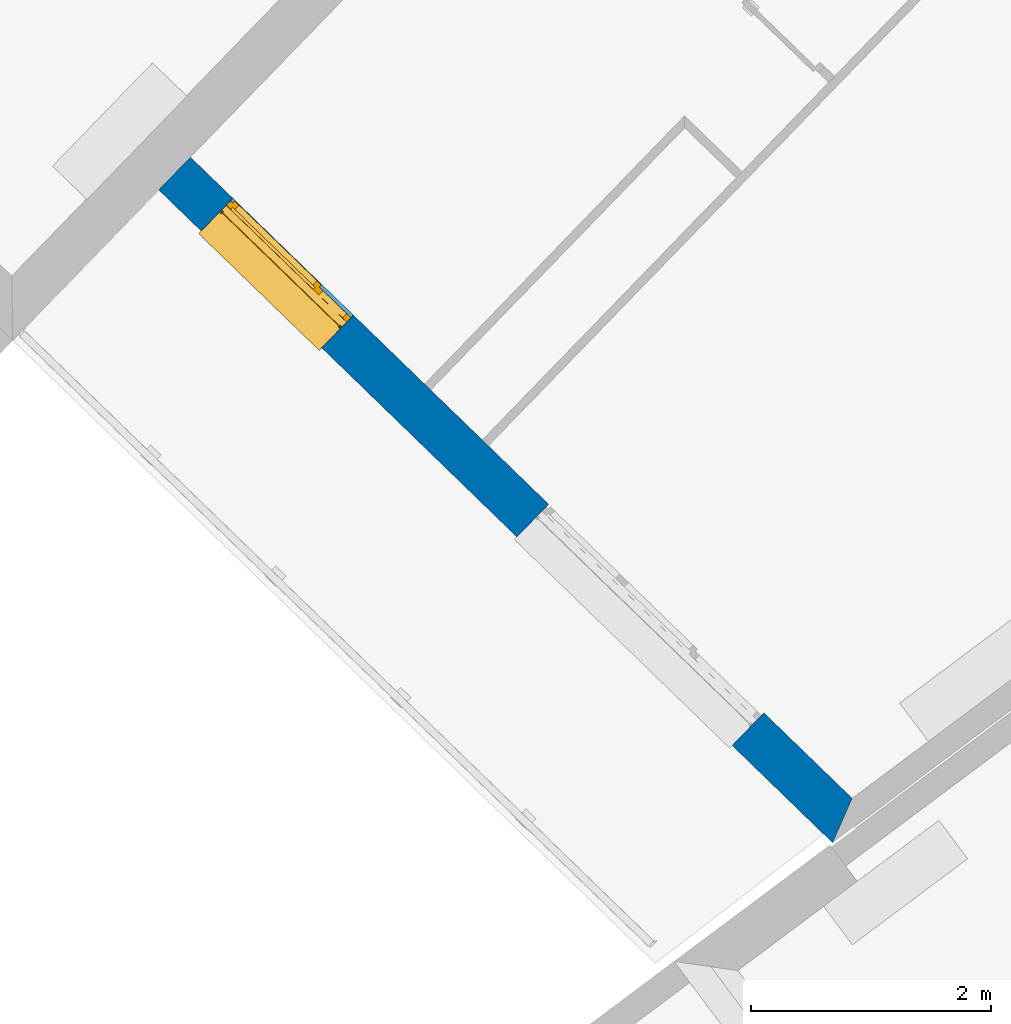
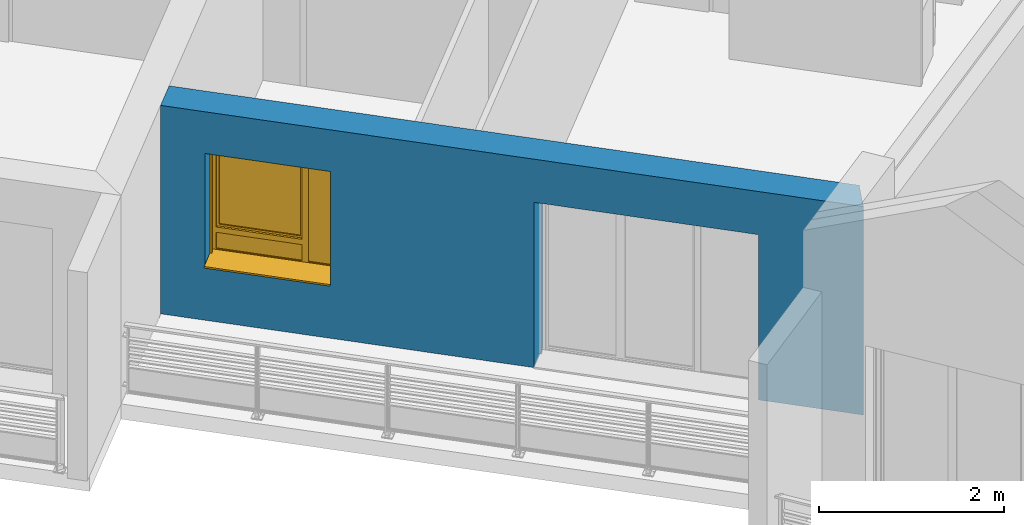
# One storey, part 2 of 121: 1 wall, 1 window, 2 openings.
"""IFC2X3 building model written with IfcOpenShell, lengths in metres."""

from ifc_helpers import new_model, entity, si_unit, converted_unit, derived_unit, money_unit, direction, frame, origin_with_axes, place, context, subcontext, project, spatial, polyline, outline, extrude, open_shell, faceted_brep, surface_model, source, transform, mapped, material, layer, layer_set, layer_usage, type_object, element, fill, save


model = new_model("IFC2X3")

# Units and contexts
model_context = context("Model", 3, precision=1e-05, world=origin_with_axes(), true_north=direction((0.0, 1.0)))
body_context = subcontext(model_context, "Body", "Model", "MODEL_VIEW")
ifc_project = project(units=[si_unit("LENGTHUNIT", "METRE"), si_unit("AREAUNIT", "SQUARE_METRE"), si_unit("VOLUMEUNIT", "CUBIC_METRE"), converted_unit("PLANEANGLEUNIT", "DEGREE", entity("IfcPlaneAngleMeasure", 0.0174532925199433), si_unit("PLANEANGLEUNIT", "RADIAN"), dimensions=[0, 0, 0, 0, 0, 0, 0]), money_unit("CHF"), converted_unit("TIMEUNIT", "Year", entity("IfcTimeMeasure", 31557600.0), si_unit("TIMEUNIT", "SECOND"), dimensions=[0, 0, 1, 0, 0, 0, 0]), si_unit("MASSUNIT", "GRAM", prefix="KILO"), si_unit("THERMODYNAMICTEMPERATUREUNIT", "DEGREE_CELSIUS"), si_unit("LUMINOUSINTENSITYUNIT", "LUMEN"), si_unit("ENERGYUNIT", "JOULE", prefix="MEGA"), derived_unit("THERMALCONDUCTANCEUNIT", [(si_unit("POWERUNIT", "WATT"), 1), (si_unit("LENGTHUNIT", "METRE"), -1), (si_unit("THERMODYNAMICTEMPERATUREUNIT", "KELVIN"), -1)]), derived_unit("SPECIFICHEATCAPACITYUNIT", [(si_unit("ENERGYUNIT", "JOULE"), 1), (si_unit("MASSUNIT", "GRAM", prefix="KILO"), -1), (si_unit("THERMODYNAMICTEMPERATUREUNIT", "KELVIN"), -1)]), derived_unit("MASSDENSITYUNIT", [(si_unit("MASSUNIT", "GRAM", prefix="KILO"), 1), (si_unit("VOLUMEUNIT", "CUBIC_METRE"), -1)])], contexts=[model_context])

# Site, building, storey
site_placement = place(None, origin_with_axes())
site = spatial("IfcSite", under=ifc_project, at=site_placement, Name="Site", CompositionType="ELEMENT")
building_placement = place(site_placement, origin_with_axes())
building = spatial("IfcBuilding", under=site, at=building_placement, Name="Bâtiment", CompositionType="ELEMENT")
storey_placement = place(building_placement, frame((0.0, 0.0, 2.75), z_axis=(0.0, 0.0, 1.0), x_axis=(1.0, 0.0, 0.0)))
storey = spatial("IfcBuildingStorey", under=building, at=storey_placement, Name="Etage 1", CompositionType="ELEMENT", Elevation=2.75)

# Wall, openings, window
ifc_material_1 = material(Name="Parpaing 312445824")
ifc_layer_1 = layer(ifc_material_1, 0.22, ventilated="UNKNOWN")
ifc_material_2 = material(Name="Isolant styromousse 301821074")
ifc_layer_2 = layer(ifc_material_2, 0.16, ventilated="UNKNOWN")
ifc_layer_set = layer_set([ifc_layer_1, ifc_layer_2], Name="isol int 22+16 0836643197")
ifc_layer_usage = layer_usage(ifc_layer_set, "AXIS2", "POSITIVE", 0.0)
wall_type = type_object("IfcWallType", Name="isol int 22+16 0836643197 380", PredefinedType="NOTDEFINED")
wall_placement = place(storey_placement, frame((9523.941571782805, -1070.182928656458, 57.7), z_axis=(0.0, 0.0, 1.0), x_axis=(0.71817639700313, -0.6958610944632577, 0.0)))
wall = element("IfcWallStandardCase", 1, at=wall_placement, inside=storey, type_object=wall_type, material=ifc_layer_usage, Name="Mur-113", context=body_context, shape_type="SweptSolid", body=[
    extrude(outline(polyline([(2.100932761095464e-10, 0.0), (7.831839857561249, 0.0), (7.690439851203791, 0.3799999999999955), (2.296474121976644e-10, 0.3799999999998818), (2.100932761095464e-10, 0.0)])), origin_with_axes(), (0.0, 0.0, 1.0), 2.75),
])
opening_1_placement = place(wall_placement, frame((5.413572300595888, 0.0, 0.0), z_axis=(0.0, 0.0, 1.0), x_axis=(1.0, 0.0, 0.0)))
element("IfcOpeningElement", 2, at=opening_1_placement, cuts=wall, Name="Fen-045", context=body_context, shape_type="Brep", body=[
    faceted_brep([(-1.25, 0.4799999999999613, 2.18), (1.249999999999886, 0.4799999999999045, 2.18), (1.25, 4.193732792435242, 2.18), (-1.250000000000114, 4.193732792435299, 2.18), (-1.25, 0.4799999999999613, 2.380000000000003), (1.249999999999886, 0.4799999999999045, 2.380000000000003), (1.249999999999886, 0.2999999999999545, 2.18), (1.249999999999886, 0.2999999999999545, 0.0), (1.25, 4.193732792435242, 0.0), (-1.250000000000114, 4.193732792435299, 0.0), (-1.250000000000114, 0.3000000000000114, 2.18), (-1.250000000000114, 0.3000000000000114, 0.0), (-1.250000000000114, 0.2199999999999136, 2.18), (-1.250000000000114, 0.2199999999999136, 2.380000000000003), (1.249999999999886, 0.2199999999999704, 2.380000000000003), (1.249999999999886, 0.2199999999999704, 2.18), (1.249999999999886, -3.813732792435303, 2.18), (1.249999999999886, -3.813732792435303, 0.0), (-1.250000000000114, -3.813732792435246, 0.0), (-1.250000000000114, -3.813732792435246, 2.18)], [[[0, 1, 2, 3]], [[1, 0, 4, 5]], [[1, 6, 7, 8, 2]], [[2, 8, 9, 3]], [[10, 0, 3, 9, 11]], [[0, 10, 12, 13, 4]], [[14, 5, 4, 13]], [[6, 1, 5, 14, 15]], [[6, 15, 16, 17, 7]], [[7, 11, 9, 8]], [[12, 10, 11, 18, 19]], [[12, 15, 14, 13]], [[15, 12, 19, 16]], [[19, 18, 17, 16]], [[11, 7, 17, 18]]]),
])
opening_2_placement = place(wall_placement, frame((1.194223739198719, 0.0, 0.7000000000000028), z_axis=(0.0, 0.0, 1.0), x_axis=(1.0, 0.0, 0.0)))
opening_2 = element("IfcOpeningElement", 3, at=opening_2_placement, cuts=wall, Name="Fen-045", context=body_context, shape_type="Brep", body=[
    faceted_brep([(-0.7000000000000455, 0.480000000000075, 1.5), (0.7000000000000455, 0.4800000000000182, 1.5), (0.7000000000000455, 4.193732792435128, 1.5), (-0.6999999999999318, 4.193732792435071, 1.5), (-0.7000000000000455, 0.480000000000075, 1.700000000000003), (0.7000000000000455, 0.4800000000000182, 1.700000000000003), (0.6999999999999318, 0.3000000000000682, 1.5), (0.7000000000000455, 0.3000000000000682, 0.0), (0.7000000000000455, 4.193732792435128, 0.0), (-0.6999999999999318, 4.193732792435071, 0.0), (-0.7000000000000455, 0.2999999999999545, 1.5), (-0.7000000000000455, 0.3000000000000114, 0.0), (-0.7000000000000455, 0.2200000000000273, 1.5), (-0.7000000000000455, 0.2200000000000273, 1.700000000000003), (0.7000000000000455, 0.2199999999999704, 1.700000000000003), (0.7000000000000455, 0.2199999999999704, 1.5), (0.7000000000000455, -3.813732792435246, 1.5), (0.7000000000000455, -3.813732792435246, 0.0), (-0.6999999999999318, -3.81373279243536, 0.0), (-0.6999999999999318, -3.81373279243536, 1.5)], [[[0, 1, 2, 3]], [[1, 0, 4, 5]], [[1, 6, 7, 8, 2]], [[2, 8, 9, 3]], [[10, 0, 3, 9, 11]], [[0, 10, 12, 13, 4]], [[14, 5, 4, 13]], [[6, 1, 5, 14, 15]], [[6, 15, 16, 17, 7]], [[7, 11, 9, 8]], [[12, 10, 11, 18, 19]], [[12, 15, 14, 13]], [[15, 12, 19, 16]], [[19, 18, 17, 16]], [[11, 7, 17, 18]]]),
])
window_style = type_object("IfcWindowStyle", Name="Fenêtre variable 27", ConstructionType="NOTDEFINED", OperationType="TRIPLE_PANEL_RIGHT", ParameterTakesPrecedence=False, Sizeable=False)
shared_shape = source(origin_with_axes(), body_context, "Body", "SurfaceModel", [
    surface_model("IfcShellBasedSurfaceModel", [(-0.7, -0.05100000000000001, 0.05), (-0.7, -0.05100000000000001, 0.04), (0.7, -0.05100000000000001, 0.04000000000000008), (0.7, -0.05100000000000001, 0.05000000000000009), (-0.7, -0.3799999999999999, 0.02899999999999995), (0.7, -0.3799999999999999, 0.02900000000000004), (-0.7, -0.3799999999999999, 0.008999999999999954), (0.7, -0.3799999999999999, 0.00900000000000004), (-0.7, -0.3699999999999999, 0.01899999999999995), (0.7, -0.3699999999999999, 0.01900000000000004)], [open_shell([[[0, 1, 2, 3]], [[1, 4, 5, 2]], [[4, 6, 7, 5]], [[6, 8, 9, 7]]])]),
    faceted_brep([(-0.7, -0.13, 1.7), (-0.697, -0.13, 1.7), (-0.697, 0.13, 1.7), (-0.7, 0.13, 1.7), (-0.7, -0.13, 1.5), (-0.697, -0.13, 1.5), (-0.697, 0.13, 1.5), (-0.7, 0.13, 1.5)], [[[0, 1, 2, 3]], [[4, 5, 1, 0]], [[1, 5, 6, 2]], [[3, 2, 6, 7]], [[0, 3, 7, 4]], [[7, 6, 5, 4]]]),
    faceted_brep([(0.6970000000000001, -0.1299999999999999, 1.7), (0.7000000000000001, -0.1299999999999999, 1.7), (0.7000000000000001, 0.1300000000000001, 1.7), (0.6970000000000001, 0.1300000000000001, 1.7), (0.6970000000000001, -0.1299999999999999, 1.5), (0.7000000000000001, -0.1299999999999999, 1.5), (0.7000000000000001, 0.1300000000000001, 1.5), (0.6970000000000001, 0.1300000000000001, 1.5)], [[[0, 1, 2, 3]], [[4, 5, 1, 0]], [[1, 5, 6, 2]], [[3, 2, 6, 7]], [[0, 3, 7, 4]], [[7, 6, 5, 4]]]),
    faceted_brep([(-0.697, -0.13, 1.5), (0.697, -0.1299999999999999, 1.5), (0.697, -0.1299999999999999, 1.7), (-0.697, -0.13, 1.7), (-0.697, -0.127, 1.5), (0.697, -0.1269999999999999, 1.5), (0.697, -0.1269999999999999, 1.697), (0.697, 0.1270000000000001, 1.697), (0.697, 0.1270000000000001, 1.503), (0.697, -0.1079999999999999, 1.503), (0.697, -0.1079999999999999, 1.5), (0.697, 0.1300000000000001, 1.5), (0.697, 0.1300000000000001, 1.7), (-0.697, 0.13, 1.7), (-0.697, 0.13, 1.5), (-0.697, -0.108, 1.5), (-0.697, -0.108, 1.503), (-0.697, 0.127, 1.503), (-0.697, 0.127, 1.697), (-0.697, -0.127, 1.697)], [[[0, 1, 2, 3]], [[4, 5, 1, 0]], [[1, 5, 6, 7, 8, 9, 10, 11, 12, 2]], [[3, 2, 12, 13]], [[0, 3, 13, 14, 15, 16, 17, 18, 19, 4]], [[19, 6, 5, 4]], [[18, 7, 6, 19]], [[17, 8, 7, 18]], [[16, 9, 8, 17]], [[15, 10, 9, 16]], [[14, 11, 10, 15]], [[13, 12, 11, 14]]]),
    faceted_brep([(-0.694, -0.08075423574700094, 1.585760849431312), (-0.694, -0.08200000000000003, 1.6), (-0.694, -0.0807542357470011, 1.614239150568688), (-0.694, -0.07705479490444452, 1.628045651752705), (-0.694, -0.07101408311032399, 1.641), (-0.694, -0.06281564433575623, 1.652708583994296), (-0.694, -0.05270858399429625, 1.662815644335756), (-0.694, -0.04100000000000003, 1.671014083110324), (-0.694, -0.02804565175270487, 1.677054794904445), (-0.694, -0.01423915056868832, 1.680754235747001), (-0.694, 0.0, 1.682), (-0.694, 0.01423915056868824, 1.680754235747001), (-0.694, 0.02804565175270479, 1.677054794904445), (-0.694, 0.04099999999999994, 1.671014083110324), (-0.694, 0.05270858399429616, 1.662815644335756), (-0.694, 0.06281564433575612, 1.652708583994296), (-0.694, 0.07101408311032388, 1.641), (-0.694, 0.0770547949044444, 1.628045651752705), (-0.694, 0.08075423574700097, 1.614239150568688), (-0.694, 0.0819999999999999, 1.6), (-0.694, 0.08075423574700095, 1.585760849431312), (-0.694, 0.07705479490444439, 1.571954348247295), (-0.694, 0.07101408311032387, 1.559), (-0.694, 0.06281564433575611, 1.547291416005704), (-0.694, 0.05270858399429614, 1.537184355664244), (-0.694, 0.04099999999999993, 1.528985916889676), (-0.694, 0.02804565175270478, 1.522945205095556), (-0.694, 0.01423915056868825, 1.519245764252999), (-0.694, 0.0, 1.518), (-0.694, -0.01423915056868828, 1.519245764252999), (-0.694, -0.02804565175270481, 1.522945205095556), (-0.694, -0.04099999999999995, 1.528985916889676), (-0.694, -0.05270858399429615, 1.537184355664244), (-0.694, -0.06281564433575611, 1.547291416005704), (-0.694, -0.07101408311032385, 1.559), (-0.694, -0.07705479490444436, 1.571954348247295), (0.694, -0.08075423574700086, 1.585760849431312), (0.694, -0.08199999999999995, 1.6), (0.694, -0.08075423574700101, 1.614239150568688), (0.694, -0.07705479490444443, 1.628045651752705), (0.694, -0.07101408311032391, 1.641), (0.694, -0.06281564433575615, 1.652708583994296), (0.694, -0.05270858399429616, 1.662815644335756), (0.694, -0.04099999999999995, 1.671014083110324), (0.694, -0.02804565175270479, 1.677054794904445), (0.694, -0.01423915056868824, 1.680754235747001), (0.694, 0.0, 1.682), (0.694, 0.01423915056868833, 1.680754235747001), (0.694, 0.02804565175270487, 1.677054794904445), (0.694, 0.04100000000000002, 1.671014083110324), (0.694, 0.05270858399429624, 1.662815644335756), (0.694, 0.0628156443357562, 1.652708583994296), (0.694, 0.07101408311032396, 1.641), (0.694, 0.07705479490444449, 1.628045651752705), (0.694, 0.08075423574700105, 1.614239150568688), (0.694, 0.08199999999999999, 1.6), (0.694, 0.08075423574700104, 1.585760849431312), (0.694, 0.07705479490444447, 1.571954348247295), (0.694, 0.07101408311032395, 1.559), (0.694, 0.06281564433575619, 1.547291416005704), (0.694, 0.05270858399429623, 1.537184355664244), (0.694, 0.04100000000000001, 1.528985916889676), (0.694, 0.02804565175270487, 1.522945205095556), (0.694, 0.01423915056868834, 1.519245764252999), (0.694, 0.0, 1.518), (0.694, -0.0142391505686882, 1.519245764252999), (0.694, -0.02804565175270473, 1.522945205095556), (0.694, -0.04099999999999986, 1.528985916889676), (0.694, -0.05270858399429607, 1.537184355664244), (0.694, -0.06281564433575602, 1.547291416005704), (0.694, -0.07101408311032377, 1.559), (0.694, -0.07705479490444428, 1.571954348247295)], [[[0, 1, 2, 3, 4, 5, 6, 7, 8, 9, 10, 11, 12, 13, 14, 15, 16, 17, 18, 19, 20, 21, 22, 23, 24, 25, 26, 27, 28, 29, 30, 31, 32, 33, 34, 35]], [[0, 36, 37, 1]], [[1, 37, 38, 2]], [[2, 38, 39, 3]], [[3, 39, 40, 4]], [[4, 40, 41, 5]], [[5, 41, 42, 6]], [[6, 42, 43, 7]], [[7, 43, 44, 8]], [[8, 44, 45, 9]], [[9, 45, 46, 10]], [[10, 46, 47, 11]], [[11, 47, 48, 12]], [[12, 48, 49, 13]], [[13, 49, 50, 14]], [[14, 50, 51, 15]], [[15, 51, 52, 16]], [[16, 52, 53, 17]], [[17, 53, 54, 18]], [[18, 54, 55, 19]], [[19, 55, 56, 20]], [[20, 56, 57, 21]], [[21, 57, 58, 22]], [[22, 58, 59, 23]], [[23, 59, 60, 24]], [[24, 60, 61, 25]], [[25, 61, 62, 26]], [[26, 62, 63, 27]], [[27, 63, 64, 28]], [[28, 64, 65, 29]], [[29, 65, 66, 30]], [[30, 66, 67, 31]], [[31, 67, 68, 32]], [[32, 68, 69, 33]], [[33, 69, 70, 34]], [[34, 70, 71, 35]], [[35, 71, 36, 0]], [[36, 71, 70, 69, 68, 67, 66, 65, 64, 63, 62, 61, 60, 59, 58, 57, 56, 55, 54, 53, 52, 51, 50, 49, 48, 47, 46, 45, 44, 43, 42, 41, 40, 39, 38, 37]]]),
    faceted_brep([(0.7, -0.105, 0.03), (0.7, -0.1049999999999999, 1.5), (0.7, -0.1299999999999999, 1.5), (0.7, -0.13, 0.03), (0.6749999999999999, -0.105, 0.03), (0.6749999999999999, -0.1049999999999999, 1.5), (0.6749999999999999, -0.1079999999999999, 1.5), (0.697, -0.1079999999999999, 1.5), (0.697, -0.1269999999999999, 1.5), (0.6749999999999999, -0.1269999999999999, 1.5), (0.6749999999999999, -0.1299999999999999, 1.5), (0.6749999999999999, -0.13, 0.03), (0.6749999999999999, -0.127, 0.03), (0.697, -0.127, 0.03), (0.697, -0.108, 0.03), (0.6749999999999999, -0.108, 0.03)], [[[0, 1, 2, 3]], [[4, 5, 1, 0]], [[1, 5, 6, 7, 8, 9, 10, 2]], [[3, 2, 10, 11]], [[0, 3, 11, 12, 13, 14, 15, 4]], [[15, 6, 5, 4]], [[14, 7, 6, 15]], [[13, 8, 7, 14]], [[12, 9, 8, 13]], [[11, 10, 9, 12]]]),
    faceted_brep([(-0.7, -0.105, 0.03), (-0.7, -0.13, 0.03), (-0.7, -0.1299999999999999, 1.5), (-0.7, -0.1049999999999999, 1.5), (-0.6749999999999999, -0.105, 0.03), (-0.6749999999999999, -0.108, 0.03), (-0.697, -0.108, 0.03), (-0.697, -0.127, 0.03), (-0.6749999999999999, -0.127, 0.03), (-0.6749999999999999, -0.13, 0.03), (-0.6749999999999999, -0.1299999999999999, 1.5), (-0.6749999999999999, -0.1269999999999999, 1.5), (-0.697, -0.1269999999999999, 1.5), (-0.697, -0.1079999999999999, 1.5), (-0.6749999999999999, -0.1079999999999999, 1.5), (-0.6749999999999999, -0.1049999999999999, 1.5)], [[[0, 1, 2, 3]], [[0, 4, 5, 6, 7, 8, 9, 1]], [[1, 9, 10, 2]], [[3, 2, 10, 11, 12, 13, 14, 15]], [[4, 0, 3, 15]], [[5, 4, 15, 14]], [[6, 5, 14, 13]], [[7, 6, 13, 12]], [[8, 7, 12, 11]], [[9, 8, 11, 10]]]),
    surface_model("IfcShellBasedSurfaceModel", [(-0.697, -0.115, 1.6), (0.697, -0.1149999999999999, 1.6), (0.697, -0.1199999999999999, 1.6), (-0.697, -0.12, 1.6), (-0.697, -0.115, 1.6), (-0.697, -0.12, 1.6), (0.697, -0.12, 1.6), (0.697, -0.1149999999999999, 1.6)], [open_shell([[[0, 1, 2, 3]], [[4, 5, 6, 7]]])]),
    faceted_brep([(-0.697, -0.115, 1.6), (0.697, -0.1149999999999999, 1.6), (0.697, -0.1166666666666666, 1.583333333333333), (-0.697, -0.1166666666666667, 1.583333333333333), (-0.697, -0.12, 1.6), (0.697, -0.1199999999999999, 1.6), (0.697, -0.1216666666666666, 1.583333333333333), (0.697, -0.1216666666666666, 1.566666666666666), (0.697, -0.1199999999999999, 1.55), (0.697, -0.1149999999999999, 1.55), (0.697, -0.1166666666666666, 1.566666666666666), (-0.697, -0.1166666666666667, 1.566666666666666), (-0.697, -0.115, 1.55), (-0.697, -0.12, 1.55), (-0.697, -0.1216666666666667, 1.566666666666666), (-0.697, -0.1216666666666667, 1.583333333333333)], [[[0, 1, 2, 3]], [[4, 5, 1, 0]], [[1, 5, 6, 7, 8, 9, 10, 2]], [[3, 2, 10, 11]], [[0, 3, 11, 12, 13, 14, 15, 4]], [[15, 6, 5, 4]], [[14, 7, 6, 15]], [[13, 8, 7, 14]], [[12, 9, 8, 13]], [[11, 10, 9, 12]]]),
    faceted_brep([(-0.697, -0.115, 1.55), (0.697, -0.1149999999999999, 1.55), (0.697, -0.1166666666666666, 1.533333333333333), (-0.697, -0.1166666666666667, 1.533333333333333), (-0.697, -0.12, 1.55), (0.697, -0.1199999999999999, 1.55), (0.697, -0.1216666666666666, 1.533333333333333), (0.697, -0.1216666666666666, 1.516666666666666), (0.697, -0.1199999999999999, 1.5), (0.697, -0.1149999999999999, 1.5), (0.697, -0.1166666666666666, 1.516666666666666), (-0.697, -0.1166666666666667, 1.516666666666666), (-0.697, -0.115, 1.5), (-0.697, -0.12, 1.5), (-0.697, -0.1216666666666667, 1.516666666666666), (-0.697, -0.1216666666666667, 1.533333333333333)], [[[0, 1, 2, 3]], [[4, 5, 1, 0]], [[1, 5, 6, 7, 8, 9, 10, 2]], [[3, 2, 10, 11]], [[0, 3, 11, 12, 13, 14, 15, 4]], [[15, 6, 5, 4]], [[14, 7, 6, 15]], [[13, 8, 7, 14]], [[12, 9, 8, 13]], [[11, 10, 9, 12]]]),
    faceted_brep([(-0.6749999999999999, 0.0, 1.45), (-0.7, 0.0, 1.45), (-0.7, -0.05000000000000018, 1.45), (-0.6499999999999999, -0.05000000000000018, 1.45), (-0.6499999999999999, -0.02500000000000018, 1.45), (-0.6749999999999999, -0.02500000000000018, 1.45), (-0.6749999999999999, 0.0, 0.3099999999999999), (-0.6499999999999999, 0.0, 0.3099999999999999), (-0.6499999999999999, 0.0, 0.265), (-0.6499999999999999, 0.0, 0.05000000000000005), (-0.7, 0.0, 0.05000000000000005), (-0.7, -0.05000000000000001, 0.05000000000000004), (-0.6499999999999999, -0.05000000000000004, 0.335), (-0.6499999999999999, -0.05000000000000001, 0.05000000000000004), (-0.6499999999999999, -0.05000000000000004, 0.265), (-0.6499999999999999, -0.02500000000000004, 0.335), (-0.6499999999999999, -0.02500000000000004, 0.3099999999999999), (-0.6749999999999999, -0.02500000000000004, 0.3099999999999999)], [[[0, 1, 2, 3, 4, 5]], [[6, 7, 8, 9, 10, 1, 0]], [[1, 10, 11, 2]], [[12, 3, 2, 11, 13, 14]], [[4, 3, 12, 15]], [[15, 16, 17, 5, 4]], [[5, 17, 6, 0]], [[6, 17, 16, 7]], [[16, 15, 12, 14, 8, 7]], [[9, 8, 14, 13]], [[10, 9, 13, 11]]]),
    faceted_brep([(0.3068894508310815, -0.02500000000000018, 1.45), (0.3068894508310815, -0.05000000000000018, 1.45), (0.3768894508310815, -0.05000000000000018, 1.45), (0.3768894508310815, 0.0, 1.45), (0.3318894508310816, 0.0, 1.45), (0.3318894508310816, -0.02500000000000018, 1.45), (0.3068894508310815, -0.02500000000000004, 0.335), (0.3068894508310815, -0.05000000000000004, 0.335), (0.3068894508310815, -0.05000000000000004, 0.265), (0.3068894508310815, -0.05000000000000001, 0.05000000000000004), (0.3768894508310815, -0.05000000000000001, 0.05000000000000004), (0.3768894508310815, 0.0, 0.05000000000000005), (0.3318894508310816, 0.0, 0.3099999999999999), (0.3068894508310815, 0.0, 0.05000000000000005), (0.3068894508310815, 0.0, 0.265), (0.3068894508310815, 0.0, 0.3099999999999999), (0.3318894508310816, -0.02500000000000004, 0.3099999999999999), (0.3068894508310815, -0.02500000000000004, 0.3099999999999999)], [[[0, 1, 2, 3, 4, 5]], [[6, 7, 1, 0]], [[8, 9, 10, 2, 1, 7]], [[11, 3, 2, 10]], [[12, 4, 3, 11, 13, 14, 15]], [[12, 16, 5, 4]], [[5, 16, 17, 6, 0]], [[17, 15, 14, 8, 7, 6]], [[14, 13, 9, 8]], [[13, 11, 10, 9]], [[15, 17, 16, 12]]]),
    faceted_brep([(-0.6499999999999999, -0.02500000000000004, 0.335), (-0.6499999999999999, -0.05000000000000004, 0.335), (0.3068894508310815, -0.05000000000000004, 0.335), (0.3068894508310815, -0.02500000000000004, 0.335), (-0.6499999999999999, -0.02500000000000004, 0.3099999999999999), (-0.6499999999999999, 0.0, 0.3099999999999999), (-0.6499999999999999, 0.0, 0.265), (-0.6499999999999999, -0.05000000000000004, 0.265), (0.3068894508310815, -0.05000000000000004, 0.265), (0.3068894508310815, -0.02500000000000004, 0.3099999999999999), (0.3068894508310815, 0.0, 0.265), (0.3068894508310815, 0.0, 0.3099999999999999)], [[[0, 1, 2, 3]], [[4, 5, 6, 7, 1, 0]], [[2, 1, 7, 8]], [[9, 3, 2, 8, 10, 11]], [[9, 4, 0, 3]], [[5, 4, 9, 11]], [[11, 10, 6, 5]], [[6, 10, 8, 7]]]),
    faceted_brep([(-0.6749999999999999, 0.0, 1.45), (-0.7, 0.0, 1.45), (-0.7, 0.0, 1.5), (0.7, 0.0, 1.5), (0.7, 0.0, 1.45), (0.6499999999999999, 0.0, 1.45), (0.3768894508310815, 0.0, 1.45), (0.3318894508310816, 0.0, 1.45), (0.3318894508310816, 0.0, 1.475), (-0.6749999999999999, 0.0, 1.475), (-0.6749999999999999, -0.02500000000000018, 1.45), (-0.6499999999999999, -0.02500000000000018, 1.45), (-0.6499999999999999, -0.05000000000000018, 1.45), (-0.7, -0.05000000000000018, 1.45), (-0.7, -0.05000000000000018, 1.5), (0.7, -0.05000000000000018, 1.5), (0.7, -0.05000000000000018, 1.45), (0.6499999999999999, -0.05000000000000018, 1.45), (0.3768894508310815, -0.05000000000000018, 1.45), (0.3318894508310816, -0.02500000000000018, 1.45), (0.3068894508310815, -0.05000000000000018, 1.45), (0.3068894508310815, -0.02500000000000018, 1.45), (0.3318894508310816, -0.02500000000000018, 1.475), (-0.6749999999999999, -0.02500000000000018, 1.475)], [[[0, 1, 2, 3, 4, 5, 6, 7, 8, 9]], [[10, 11, 12, 13, 1, 0]], [[2, 1, 13, 14]], [[3, 2, 14, 15]], [[4, 3, 15, 16]], [[5, 4, 16, 17]], [[6, 5, 17, 18]], [[19, 7, 6, 18, 20, 21]], [[7, 19, 22, 8]], [[8, 22, 23, 9]], [[9, 23, 10, 0]], [[21, 11, 10, 23, 22, 19]], [[21, 20, 12, 11]], [[18, 17, 16, 15, 14, 13, 12, 20]]]),
    faceted_brep([(0.6499999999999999, -0.05000000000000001, 0.05), (0.6499999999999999, 0.0, 0.05000000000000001), (0.7, 0.0, 0.05000000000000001), (0.7, -0.05000000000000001, 0.05), (0.6499999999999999, -0.05000000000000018, 1.45), (0.6499999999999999, 0.0, 1.45), (0.7, 0.0, 1.45), (0.7, -0.05000000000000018, 1.45)], [[[0, 1, 2, 3]], [[4, 5, 1, 0]], [[1, 5, 6, 2]], [[3, 2, 6, 7]], [[0, 3, 7, 4]], [[7, 6, 5, 4]]]),
    faceted_brep([(-0.6499999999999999, -0.05000000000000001, 0.05), (-0.6499999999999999, 0.0, 0.05000000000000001), (-0.7, 0.0, 0.05000000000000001), (-0.7, -0.05000000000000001, 0.05), (0.3068894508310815, -0.05000000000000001, 0.05), (0.3068894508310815, 0.0, 0.05000000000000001), (0.3768894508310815, 0.0, 0.05000000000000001), (0.6499999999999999, 0.0, 0.05000000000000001), (0.7, 0.0, 0.05000000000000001), (0.7, 0.0, 0.0), (-0.7, 0.0, 0.0), (-0.7, -0.05, 0.0), (0.7, -0.05, 0.0), (0.7, -0.05000000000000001, 0.05), (0.6499999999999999, -0.05000000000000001, 0.05), (0.3768894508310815, -0.05000000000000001, 0.05)], [[[0, 1, 2, 3]], [[4, 5, 1, 0]], [[1, 5, 6, 7, 8, 9, 10, 2]], [[3, 2, 10, 11]], [[0, 3, 11, 12, 13, 14, 15, 4]], [[15, 6, 5, 4]], [[14, 7, 6, 15]], [[13, 8, 7, 14]], [[12, 9, 8, 13]], [[11, 10, 9, 12]]]),
    faceted_brep([(-0.625, -0.02500000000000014, 1.425), (-0.625, 0.02499999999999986, 1.425), (-0.6749999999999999, 0.02499999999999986, 1.425), (-0.6749999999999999, -0.02500000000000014, 1.425), (-0.625, -0.02500000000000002, 0.3599999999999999), (-0.625, 0.02499999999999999, 0.3599999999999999), (-0.6749999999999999, 0.02499999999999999, 0.3599999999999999), (-0.6749999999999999, -0.02500000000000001, 0.3599999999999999)], [[[0, 1, 2, 3]], [[4, 5, 1, 0]], [[1, 5, 6, 2]], [[3, 2, 6, 7]], [[0, 3, 7, 4]], [[7, 6, 5, 4]]]),
    faceted_brep([(0.2818894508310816, -0.02500000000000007, 0.3599999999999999), (0.2818894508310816, 0.02499999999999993, 0.3599999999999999), (0.3318894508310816, 0.02499999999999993, 0.3599999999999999), (0.3318894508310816, -0.02500000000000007, 0.3599999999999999), (0.2818894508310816, -0.0250000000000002, 1.425), (0.2818894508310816, 0.0249999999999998, 1.425), (0.3318894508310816, 0.0249999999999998, 1.425), (0.3318894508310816, -0.0250000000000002, 1.425)], [[[0, 1, 2, 3]], [[4, 5, 1, 0]], [[1, 5, 6, 2]], [[3, 2, 6, 7]], [[0, 3, 7, 4]], [[7, 6, 5, 4]]]),
    faceted_brep([(0.3318894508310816, -0.02500000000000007, 0.3099999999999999), (0.3318894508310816, 0.02499999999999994, 0.3099999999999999), (0.3318894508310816, 0.02499999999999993, 0.3599999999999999), (0.3318894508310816, -0.02500000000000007, 0.3599999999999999), (-0.6749999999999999, -0.025, 0.3099999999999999), (-0.6749999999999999, 0.02499999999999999, 0.3099999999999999), (-0.6749999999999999, 0.02499999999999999, 0.3599999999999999), (-0.625, 0.02499999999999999, 0.3599999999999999), (0.2818894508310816, 0.02499999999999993, 0.3599999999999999), (0.2818894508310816, -0.02500000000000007, 0.3599999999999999), (-0.625, -0.02500000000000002, 0.3599999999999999), (-0.6749999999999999, -0.02500000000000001, 0.3599999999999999)], [[[0, 1, 2, 3]], [[4, 5, 1, 0]], [[1, 5, 6, 7, 8, 2]], [[3, 2, 8, 9]], [[0, 3, 9, 10, 11, 4]], [[11, 6, 5, 4]], [[10, 7, 6, 11]], [[9, 8, 7, 10]]]),
    faceted_brep([(-0.6749999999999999, -0.02500000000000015, 1.475), (-0.6749999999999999, 0.02499999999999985, 1.475), (-0.6749999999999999, 0.02499999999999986, 1.425), (-0.6749999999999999, -0.02500000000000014, 1.425), (0.3318894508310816, -0.02500000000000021, 1.475), (0.3318894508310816, 0.02499999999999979, 1.475), (0.3318894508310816, 0.0249999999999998, 1.425), (0.2818894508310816, 0.0249999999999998, 1.425), (-0.625, 0.02499999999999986, 1.425), (-0.625, -0.02500000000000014, 1.425), (0.2818894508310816, -0.0250000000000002, 1.425), (0.3318894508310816, -0.0250000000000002, 1.425)], [[[0, 1, 2, 3]], [[4, 5, 1, 0]], [[1, 5, 6, 7, 8, 2]], [[3, 2, 8, 9]], [[0, 3, 9, 10, 11, 4]], [[11, 6, 5, 4]], [[10, 7, 6, 11]], [[9, 8, 7, 10]]]),
    surface_model("IfcShellBasedSurfaceModel", [(-0.625, -0.01000000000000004, 0.3599999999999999), (0.2818894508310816, -0.01000000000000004, 0.3599999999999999), (0.2818894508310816, -0.01000000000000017, 1.425), (-0.625, -0.01000000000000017, 1.425)], [open_shell([[[0, 1, 2, 3]]])]),
    surface_model("IfcShellBasedSurfaceModel", [(-0.625, 0.009999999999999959, 0.3599999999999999), (-0.625, 0.00999999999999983, 1.425), (0.2818894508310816, 0.00999999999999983, 1.425), (0.2818894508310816, 0.009999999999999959, 0.3599999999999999)], [open_shell([[[0, 1, 2, 3]]])]),
    surface_model("IfcShellBasedSurfaceModel", [(0.3768894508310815, -0.035, 0.05), (0.65, -0.035, 0.05), (0.65, -0.03500000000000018, 1.45), (0.3768894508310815, -0.03500000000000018, 1.45)], [open_shell([[[0, 1, 2, 3]]])]),
    surface_model("IfcShellBasedSurfaceModel", [(0.3768894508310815, -0.015, 0.05), (0.3768894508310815, -0.01500000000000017, 1.45), (0.65, -0.01500000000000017, 1.45), (0.65, -0.015, 0.05)], [open_shell([[[0, 1, 2, 3]]])]),
    surface_model("IfcShellBasedSurfaceModel", [(-0.6499999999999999, -0.035, 0.05), (0.3068894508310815, -0.035, 0.05), (0.3068894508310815, -0.03500000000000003, 0.265), (-0.6499999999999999, -0.03500000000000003, 0.265)], [open_shell([[[0, 1, 2, 3]]])]),
    surface_model("IfcShellBasedSurfaceModel", [(-0.6499999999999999, -0.015, 0.05), (-0.6499999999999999, -0.01500000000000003, 0.265), (0.3068894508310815, -0.01500000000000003, 0.265), (0.3068894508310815, -0.015, 0.05)], [open_shell([[[0, 1, 2, 3]]])]),
])
window_placement = place(opening_2_placement, frame((-0.6999999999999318, 0.0, 0.0), z_axis=(0.0, 0.0, 1.0), x_axis=(1.0, 0.0, 0.0)))
window = element("IfcWindow", 4, at=window_placement, inside=storey, type_object=window_style, Name="Fen-045", OverallHeight=1.5, OverallWidth=1.4, context=body_context, shape_type="MappedRepresentation", body=[
    mapped(shared_shape, transform((0.7000000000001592, 0.3500000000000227, 0.0))),
])
fill(opening_2, window)

save(model, "model.ifc")
